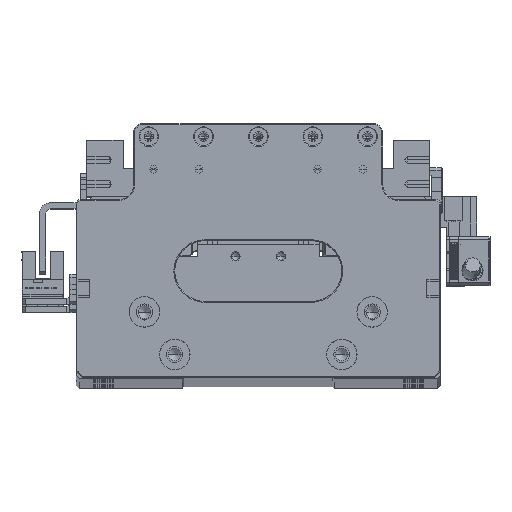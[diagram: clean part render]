
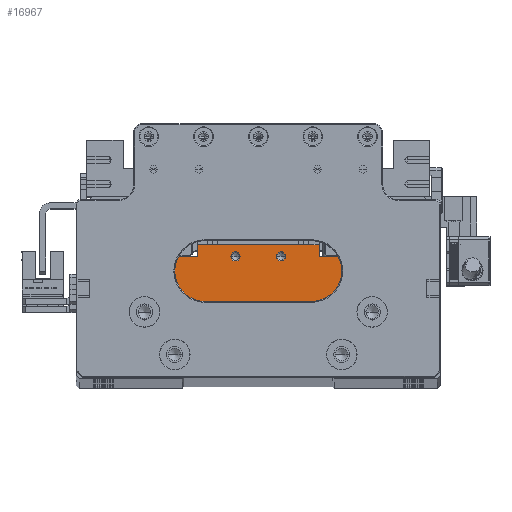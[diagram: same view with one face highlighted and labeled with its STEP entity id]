
A CAD part, top view. The second image highlights one B-rep face of the part: STEP entity #16967.
In plain terms, the highlighted planar face has unit normal (0, 0, 1).
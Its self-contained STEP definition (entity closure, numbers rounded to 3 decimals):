
#475 = CARTESIAN_POINT ( 'NONE',  ( -88.6, 79.08, 462.722 ) ) ;
#666 = CARTESIAN_POINT ( 'NONE',  ( -112.525, 78.98, 462.722 ) ) ;
#951 = CARTESIAN_POINT ( 'NONE',  ( -90.125, 82.98, 462.722 ) ) ;
#2788 = ORIENTED_EDGE ( 'NONE', *, *, #10368, .F. ) ;
#2975 = EDGE_CURVE ( 'NONE', #60783, #121915, #117537, .T. ) ;
#4728 = LINE ( 'NONE', #951, #110987 ) ;
#5107 = EDGE_LOOP ( 'NONE', ( #40758, #2788 ) ) ;
#5187 = VERTEX_POINT ( 'NONE', #111049 ) ;
#5667 = VERTEX_POINT ( 'NONE', #113127 ) ;
#6738 = PLANE ( 'NONE',  #78377 ) ;
#7588 = LINE ( 'NONE', #8219, #92997 ) ;
#8219 = CARTESIAN_POINT ( 'NONE',  ( -52.725, 71.48, 462.722 ) ) ;
#9862 = DIRECTION ( 'NONE',  ( 0., 0., 1. ) ) ;
#9918 = LINE ( 'NONE', #113697, #116145 ) ;
#10107 = CARTESIAN_POINT ( 'NONE',  ( -76.65, 79.08, 462.722 ) ) ;
#10359 = EDGE_CURVE ( 'NONE', #89183, #111712, #73591, .T. ) ;
#10368 = EDGE_CURVE ( 'NONE', #111712, #89183, #100921, .T. ) ;
#12616 = CARTESIAN_POINT ( 'NONE',  ( -102.625, 71.48, 462.722 ) ) ;
#13869 = VECTOR ( 'NONE', #100591, 1000. ) ;
#14864 = EDGE_CURVE ( 'NONE', #121915, #60783, #30690, .T. ) ;
#15014 = ORIENTED_EDGE ( 'NONE', *, *, #55194, .F. ) ;
#16967 = ADVANCED_FACE ( 'NONE', ( #128495, #125263, #43336 ), #6738, .F. ) ;
#17100 = CARTESIAN_POINT ( 'NONE',  ( -90.125, 71.48, 462.722 ) ) ;
#17996 = LINE ( 'NONE', #12616, #124128 ) ;
#21566 = ORIENTED_EDGE ( 'NONE', *, *, #107511, .F. ) ;
#22176 = ORIENTED_EDGE ( 'NONE', *, *, #59081, .F. ) ;
#22473 = EDGE_CURVE ( 'NONE', #80313, #101450, #111474, .T. ) ;
#23011 = VECTOR ( 'NONE', #70066, 1000. ) ;
#27208 = VERTEX_POINT ( 'NONE', #109990 ) ;
#27476 = DIRECTION ( 'NONE',  ( -1., 0., 0. ) ) ;
#30170 = CARTESIAN_POINT ( 'NONE',  ( -75.125, 79.08, 462.722 ) ) ;
#30690 = CIRCLE ( 'NONE', #121190, 1.525 ) ;
#31582 = CARTESIAN_POINT ( 'NONE',  ( -90.125, 79.08, 462.722 ) ) ;
#31862 = DIRECTION ( 'NONE',  ( 0., 1., 0. ) ) ;
#32631 = VECTOR ( 'NONE', #50741, 1000. ) ;
#34224 = ORIENTED_EDGE ( 'NONE', *, *, #22473, .T. ) ;
#35422 = DIRECTION ( 'NONE',  ( 0., 0., 1. ) ) ;
#38998 = CARTESIAN_POINT ( 'NONE',  ( -62.625, 71.48, 462.722 ) ) ;
#40543 = DIRECTION ( 'NONE',  ( 1., 0., 0. ) ) ;
#40758 = ORIENTED_EDGE ( 'NONE', *, *, #10359, .F. ) ;
#41710 = AXIS2_PLACEMENT_3D ( 'NONE', #30170, #102143, #40543 ) ;
#41979 = DIRECTION ( 'NONE',  ( 1., 0., 0. ) ) ;
#42369 = DIRECTION ( 'NONE',  ( 1., 0., 0. ) ) ;
#43336 = FACE_BOUND ( 'NONE', #102233, .T. ) ;
#47370 = EDGE_CURVE ( 'NONE', #62455, #5187, #4728, .T. ) ;
#48654 = AXIS2_PLACEMENT_3D ( 'NONE', #71626, #9862, #81945 ) ;
#50741 = DIRECTION ( 'NONE',  ( 1., 0., 0. ) ) ;
#55194 = EDGE_CURVE ( 'NONE', #27208, #62455, #17996, .T. ) ;
#56286 = ORIENTED_EDGE ( 'NONE', *, *, #2975, .F. ) ;
#59081 = EDGE_CURVE ( 'NONE', #80313, #106106, #9918, .T. ) ;
#60149 = CARTESIAN_POINT ( 'NONE',  ( -90.125, 78.98, 462.722 ) ) ;
#60783 = VERTEX_POINT ( 'NONE', #475 ) ;
#62455 = VERTEX_POINT ( 'NONE', #90462 ) ;
#64114 = EDGE_CURVE ( 'NONE', #5187, #79047, #65460, .T. ) ;
#65460 = LINE ( 'NONE', #38998, #13869 ) ;
#68899 = DIRECTION ( 'NONE',  ( 1., 0., 0. ) ) ;
#70066 = DIRECTION ( 'NONE',  ( 1., 0., 0. ) ) ;
#70733 = EDGE_CURVE ( 'NONE', #79047, #5667, #101923, .T. ) ;
#71626 = CARTESIAN_POINT ( 'NONE',  ( -75.125, 79.08, 462.722 ) ) ;
#73591 = CIRCLE ( 'NONE', #41710, 1.525 ) ;
#74008 = ORIENTED_EDGE ( 'NONE', *, *, #47370, .F. ) ;
#74370 = DIRECTION ( 'NONE',  ( 0., 1., 0. ) ) ;
#75182 = CARTESIAN_POINT ( 'NONE',  ( -62.625, 78.98, 462.722 ) ) ;
#77560 = ORIENTED_EDGE ( 'NONE', *, *, #70733, .F. ) ;
#78377 = AXIS2_PLACEMENT_3D ( 'NONE', #17100, #89132, #27476 ) ;
#79047 = VERTEX_POINT ( 'NONE', #75182 ) ;
#79212 = CARTESIAN_POINT ( 'NONE',  ( -90.125, 78.98, 462.722 ) ) ;
#79787 = CARTESIAN_POINT ( 'NONE',  ( -91.65, 79.08, 462.722 ) ) ;
#80313 = VERTEX_POINT ( 'NONE', #91903 ) ;
#81945 = DIRECTION ( 'NONE',  ( 1., 0., 0. ) ) ;
#89132 = DIRECTION ( 'NONE',  ( 0., 0., -1. ) ) ;
#89183 = VERTEX_POINT ( 'NONE', #117434 ) ;
#90462 = CARTESIAN_POINT ( 'NONE',  ( -102.625, 82.98, 462.722 ) ) ;
#91903 = CARTESIAN_POINT ( 'NONE',  ( -112.525, 59.78, 462.722 ) ) ;
#92756 = AXIS2_PLACEMENT_3D ( 'NONE', #97064, #35422, #107373 ) ;
#92828 = ORIENTED_EDGE ( 'NONE', *, *, #14864, .F. ) ;
#92997 = VECTOR ( 'NONE', #131426, 1000. ) ;
#93854 = EDGE_CURVE ( 'NONE', #106106, #27208, #109173, .T. ) ;
#97064 = CARTESIAN_POINT ( 'NONE',  ( -90.125, 79.08, 462.722 ) ) ;
#99678 = CARTESIAN_POINT ( 'NONE',  ( -52.725, 59.78, 462.722 ) ) ;
#100591 = DIRECTION ( 'NONE',  ( 0., -1., 0. ) ) ;
#100599 = ORIENTED_EDGE ( 'NONE', *, *, #93854, .F. ) ;
#100921 = CIRCLE ( 'NONE', #48654, 1.525 ) ;
#101450 = VERTEX_POINT ( 'NONE', #99678 ) ;
#101923 = LINE ( 'NONE', #60149, #23011 ) ;
#102143 = DIRECTION ( 'NONE',  ( 0., 0., 1. ) ) ;
#102233 = EDGE_LOOP ( 'NONE', ( #56286, #92828 ) ) ;
#103583 = DIRECTION ( 'NONE',  ( 0., 0., 1. ) ) ;
#103819 = EDGE_LOOP ( 'NONE', ( #100599, #22176, #34224, #21566, #77560, #123334, #74008, #15014 ) ) ;
#106106 = VERTEX_POINT ( 'NONE', #666 ) ;
#107373 = DIRECTION ( 'NONE',  ( 1., 0., 0. ) ) ;
#107511 = EDGE_CURVE ( 'NONE', #5667, #101450, #7588, .T. ) ;
#109173 = LINE ( 'NONE', #79212, #133206 ) ;
#109990 = CARTESIAN_POINT ( 'NONE',  ( -102.625, 78.98, 462.722 ) ) ;
#110987 = VECTOR ( 'NONE', #42369, 1000. ) ;
#111049 = CARTESIAN_POINT ( 'NONE',  ( -62.625, 82.98, 462.722 ) ) ;
#111474 = LINE ( 'NONE', #112271, #32631 ) ;
#111712 = VERTEX_POINT ( 'NONE', #10107 ) ;
#112271 = CARTESIAN_POINT ( 'NONE',  ( -90.125, 59.78, 462.722 ) ) ;
#113127 = CARTESIAN_POINT ( 'NONE',  ( -52.725, 78.98, 462.722 ) ) ;
#113697 = CARTESIAN_POINT ( 'NONE',  ( -112.525, 71.48, 462.722 ) ) ;
#116145 = VECTOR ( 'NONE', #31862, 1000. ) ;
#117434 = CARTESIAN_POINT ( 'NONE',  ( -73.6, 79.08, 462.722 ) ) ;
#117537 = CIRCLE ( 'NONE', #92756, 1.525 ) ;
#121190 = AXIS2_PLACEMENT_3D ( 'NONE', #31582, #103583, #41979 ) ;
#121915 = VERTEX_POINT ( 'NONE', #79787 ) ;
#123334 = ORIENTED_EDGE ( 'NONE', *, *, #64114, .F. ) ;
#124128 = VECTOR ( 'NONE', #74370, 1000. ) ;
#125263 = FACE_BOUND ( 'NONE', #5107, .T. ) ;
#128495 = FACE_OUTER_BOUND ( 'NONE', #103819, .T. ) ;
#131426 = DIRECTION ( 'NONE',  ( 0., -1., 0. ) ) ;
#133206 = VECTOR ( 'NONE', #68899, 1000. ) ;
